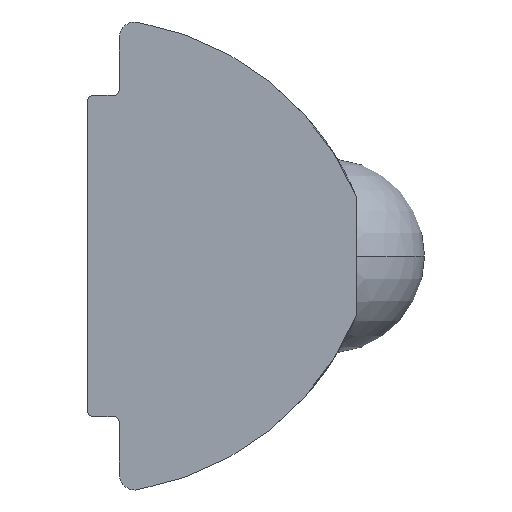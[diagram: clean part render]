
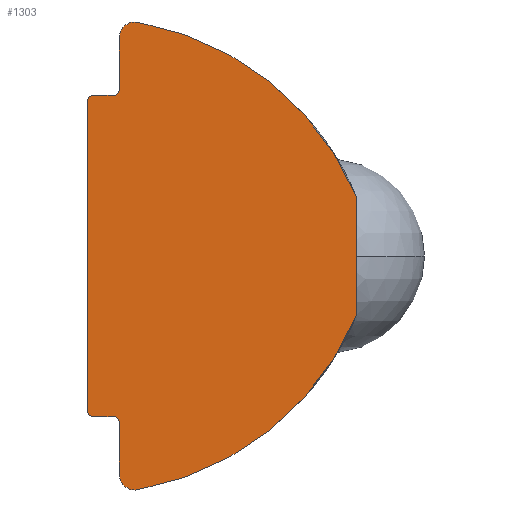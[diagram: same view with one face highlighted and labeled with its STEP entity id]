
A CAD part, left-side view. The second image highlights one B-rep face of the part: STEP entity #1303.
In plain terms, the highlighted planar face has unit normal (-1, 0, 0).
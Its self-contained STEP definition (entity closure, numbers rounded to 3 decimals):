
#134 = ORIENTED_EDGE ( 'NONE', *, *, #2573, .F. ) ;
#169 = CARTESIAN_POINT ( 'NONE',  ( 0., 6.78, -1.351 ) ) ;
#224 = CARTESIAN_POINT ( 'NONE',  ( 0., 6.78, -3.9 ) ) ;
#305 = AXIS2_PLACEMENT_3D ( 'NONE', #2432, #3426, #4887 ) ;
#356 = EDGE_CURVE ( 'NONE', #6103, #3011, #3982, .T. ) ;
#429 = LINE ( 'NONE', #6165, #3277 ) ;
#492 = DIRECTION ( 'NONE',  ( 1., 0., 0. ) ) ;
#596 = VERTEX_POINT ( 'NONE', #4872 ) ;
#617 = AXIS2_PLACEMENT_3D ( 'NONE', #5104, #2166, #4621 ) ;
#654 = CARTESIAN_POINT ( 'NONE',  ( 0., 6.63, -3.9 ) ) ;
#657 = CARTESIAN_POINT ( 'NONE',  ( 0., 6.78, 3.9 ) ) ;
#684 = VERTEX_POINT ( 'NONE', #224 ) ;
#704 = CARTESIAN_POINT ( 'NONE',  ( 0., 0., 1.5 ) ) ;
#708 = EDGE_CURVE ( 'NONE', #3981, #1138, #1649, .T. ) ;
#764 = EDGE_CURVE ( 'NONE', #684, #2660, #3195, .T. ) ;
#767 = CARTESIAN_POINT ( 'NONE',  ( 0., 6.78, 4.05 ) ) ;
#969 = ORIENTED_EDGE ( 'NONE', *, *, #5894, .T. ) ;
#1069 = CARTESIAN_POINT ( 'NONE',  ( 0., 6.63, 4.05 ) ) ;
#1112 = CARTESIAN_POINT ( 'NONE',  ( 0., 0., 1.5 ) ) ;
#1138 = VERTEX_POINT ( 'NONE', #5050 ) ;
#1186 = EDGE_CURVE ( 'NONE', #6262, #596, #4159, .T. ) ;
#1228 = DIRECTION ( 'NONE',  ( 0., 0., -1. ) ) ;
#1303 = ADVANCED_FACE ( 'NONE', ( #2367 ), #1859, .F. ) ;
#1330 = VERTEX_POINT ( 'NONE', #4309 ) ;
#1389 = CARTESIAN_POINT ( 'NONE',  ( 0., 5.58, 5.5 ) ) ;
#1462 = CIRCLE ( 'NONE', #5015, 0.15 ) ;
#1474 = VERTEX_POINT ( 'NONE', #5186 ) ;
#1548 = ORIENTED_EDGE ( 'NONE', *, *, #1186, .F. ) ;
#1583 = CARTESIAN_POINT ( 'NONE',  ( 0., 5.511, -5.894 ) ) ;
#1585 = AXIS2_PLACEMENT_3D ( 'NONE', #169, #4498, #1228 ) ;
#1628 = EDGE_CURVE ( 'NONE', #3011, #1330, #429, .T. ) ;
#1630 = VERTEX_POINT ( 'NONE', #3743 ) ;
#1649 = CIRCLE ( 'NONE', #617, 0.4 ) ;
#1699 = DIRECTION ( 'NONE',  ( 0., 0., 1. ) ) ;
#1706 = ORIENTED_EDGE ( 'NONE', *, *, #764, .F. ) ;
#1721 = DIRECTION ( 'NONE',  ( 0., 1., 0. ) ) ;
#1833 = EDGE_LOOP ( 'NONE', ( #1706, #6050, #3688, #3567, #3518, #3623, #134, #2248, #5956, #5917, #6071, #6133, #6293, #1548, #969 ) ) ;
#1859 = PLANE ( 'NONE',  #3178 ) ;
#1901 = LINE ( 'NONE', #2888, #4961 ) ;
#1936 = CARTESIAN_POINT ( 'NONE',  ( 0., 5.98, 5.5 ) ) ;
#2120 = DIRECTION ( 'NONE',  ( -1., 0., 0. ) ) ;
#2158 = LINE ( 'NONE', #1112, #6087 ) ;
#2166 = DIRECTION ( 'NONE',  ( 1., 0., 0. ) ) ;
#2177 = CARTESIAN_POINT ( 'NONE',  ( 0., 6.78, 4.05 ) ) ;
#2185 = DIRECTION ( 'NONE',  ( 0., 0., -1. ) ) ;
#2209 = DIRECTION ( 'NONE',  ( 0., -1., 0. ) ) ;
#2248 = ORIENTED_EDGE ( 'NONE', *, *, #2783, .F. ) ;
#2332 = DIRECTION ( 'NONE',  ( 1., 0., 0. ) ) ;
#2367 = FACE_OUTER_BOUND ( 'NONE', #1833, .T. ) ;
#2413 = VECTOR ( 'NONE', #1721, 1000. ) ;
#2432 = CARTESIAN_POINT ( 'NONE',  ( 0., 5.58, 5.5 ) ) ;
#2440 = CIRCLE ( 'NONE', #5200, 0.15 ) ;
#2501 = CARTESIAN_POINT ( 'NONE',  ( 0., 6.63, -4.05 ) ) ;
#2515 = CARTESIAN_POINT ( 'NONE',  ( 0., 5.511, 5.894 ) ) ;
#2573 = EDGE_CURVE ( 'NONE', #1630, #6103, #3477, .T. ) ;
#2660 = VERTEX_POINT ( 'NONE', #657 ) ;
#2699 = DIRECTION ( 'NONE',  ( 1., 0., 0. ) ) ;
#2745 = EDGE_CURVE ( 'NONE', #6089, #3321, #5955, .T. ) ;
#2783 = EDGE_CURVE ( 'NONE', #4448, #1630, #2158, .T. ) ;
#2888 = CARTESIAN_POINT ( 'NONE',  ( 0., 5.98, 4.05 ) ) ;
#2892 = DIRECTION ( 'NONE',  ( 1., 0., 0. ) ) ;
#3011 = VERTEX_POINT ( 'NONE', #6118 ) ;
#3178 = AXIS2_PLACEMENT_3D ( 'NONE', #1389, #2332, #4695 ) ;
#3195 = LINE ( 'NONE', #767, #4481 ) ;
#3196 = DIRECTION ( 'NONE',  ( 0., 0., -1. ) ) ;
#3255 = DIRECTION ( 'NONE',  ( -1., 0., 0. ) ) ;
#3277 = VECTOR ( 'NONE', #4278, 1000. ) ;
#3321 = VERTEX_POINT ( 'NONE', #2501 ) ;
#3365 = EDGE_CURVE ( 'NONE', #1474, #3981, #1901, .T. ) ;
#3388 = DIRECTION ( 'NONE',  ( 0., 0., 1. ) ) ;
#3426 = DIRECTION ( 'NONE',  ( 1., 0., 0. ) ) ;
#3465 = CIRCLE ( 'NONE', #305, 0.4 ) ;
#3477 = CIRCLE ( 'NONE', #4656, 7.355 ) ;
#3489 = CARTESIAN_POINT ( 'NONE',  ( 0., 6.13, -4.2 ) ) ;
#3518 = ORIENTED_EDGE ( 'NONE', *, *, #1628, .F. ) ;
#3567 = ORIENTED_EDGE ( 'NONE', *, *, #6203, .T. ) ;
#3623 = ORIENTED_EDGE ( 'NONE', *, *, #356, .F. ) ;
#3664 = DIRECTION ( 'NONE',  ( 0., 0., -1. ) ) ;
#3688 = ORIENTED_EDGE ( 'NONE', *, *, #2745, .F. ) ;
#3743 = CARTESIAN_POINT ( 'NONE',  ( 0., 0., -1.5 ) ) ;
#3768 = AXIS2_PLACEMENT_3D ( 'NONE', #3489, #492, #5438 ) ;
#3820 = CARTESIAN_POINT ( 'NONE',  ( 0., 6.13, 4.2 ) ) ;
#3826 = VERTEX_POINT ( 'NONE', #2515 ) ;
#3850 = DIRECTION ( 'NONE',  ( 0., 0., 1. ) ) ;
#3967 = CARTESIAN_POINT ( 'NONE',  ( 0., 6.13, -4.05 ) ) ;
#3981 = VERTEX_POINT ( 'NONE', #1936 ) ;
#3982 = CIRCLE ( 'NONE', #4796, 0.4 ) ;
#4159 = LINE ( 'NONE', #2177, #5105 ) ;
#4278 = DIRECTION ( 'NONE',  ( 0., 0., 1. ) ) ;
#4309 = CARTESIAN_POINT ( 'NONE',  ( 0., 5.98, -4.2 ) ) ;
#4337 = CARTESIAN_POINT ( 'NONE',  ( 0., 5.58, -5.5 ) ) ;
#4448 = VERTEX_POINT ( 'NONE', #704 ) ;
#4481 = VECTOR ( 'NONE', #1699, 1000. ) ;
#4498 = DIRECTION ( 'NONE',  ( 1., 0., 0. ) ) ;
#4510 = CARTESIAN_POINT ( 'NONE',  ( 0., 6.78, -4.05 ) ) ;
#4621 = DIRECTION ( 'NONE',  ( 0., 0., -1. ) ) ;
#4656 = AXIS2_PLACEMENT_3D ( 'NONE', #5062, #2699, #6021 ) ;
#4695 = DIRECTION ( 'NONE',  ( 0., 0., -1. ) ) ;
#4796 = AXIS2_PLACEMENT_3D ( 'NONE', #4337, #5843, #3388 ) ;
#4872 = CARTESIAN_POINT ( 'NONE',  ( 0., 6.13, 4.05 ) ) ;
#4874 = EDGE_CURVE ( 'NONE', #684, #3321, #1462, .T. ) ;
#4887 = DIRECTION ( 'NONE',  ( 0., 0., -1. ) ) ;
#4961 = VECTOR ( 'NONE', #3850, 1000. ) ;
#5015 = AXIS2_PLACEMENT_3D ( 'NONE', #654, #2120, #2185 ) ;
#5050 = CARTESIAN_POINT ( 'NONE',  ( 0., 5.58, 5.9 ) ) ;
#5062 = CARTESIAN_POINT ( 'NONE',  ( 0., 6.78, 1.351 ) ) ;
#5073 = EDGE_CURVE ( 'NONE', #3826, #4448, #5449, .T. ) ;
#5104 = CARTESIAN_POINT ( 'NONE',  ( 0., 5.58, 5.5 ) ) ;
#5105 = VECTOR ( 'NONE', #2209, 1000. ) ;
#5186 = CARTESIAN_POINT ( 'NONE',  ( 0., 5.98, 4.2 ) ) ;
#5200 = AXIS2_PLACEMENT_3D ( 'NONE', #6127, #3255, #3196 ) ;
#5400 = CIRCLE ( 'NONE', #6008, 0.15 ) ;
#5438 = DIRECTION ( 'NONE',  ( 0., 0., -1. ) ) ;
#5449 = CIRCLE ( 'NONE', #1585, 7.355 ) ;
#5680 = EDGE_CURVE ( 'NONE', #1474, #596, #5400, .T. ) ;
#5739 = DIRECTION ( 'NONE',  ( 0., 0., -1. ) ) ;
#5843 = DIRECTION ( 'NONE',  ( 1., 0., 0. ) ) ;
#5894 = EDGE_CURVE ( 'NONE', #6262, #2660, #2440, .T. ) ;
#5917 = ORIENTED_EDGE ( 'NONE', *, *, #6247, .F. ) ;
#5955 = LINE ( 'NONE', #4510, #2413 ) ;
#5956 = ORIENTED_EDGE ( 'NONE', *, *, #5073, .F. ) ;
#6008 = AXIS2_PLACEMENT_3D ( 'NONE', #3820, #2892, #5739 ) ;
#6021 = DIRECTION ( 'NONE',  ( 0., 0., 1. ) ) ;
#6050 = ORIENTED_EDGE ( 'NONE', *, *, #4874, .T. ) ;
#6071 = ORIENTED_EDGE ( 'NONE', *, *, #708, .F. ) ;
#6087 = VECTOR ( 'NONE', #3664, 1000. ) ;
#6089 = VERTEX_POINT ( 'NONE', #3967 ) ;
#6103 = VERTEX_POINT ( 'NONE', #1583 ) ;
#6118 = CARTESIAN_POINT ( 'NONE',  ( 0., 5.98, -5.5 ) ) ;
#6127 = CARTESIAN_POINT ( 'NONE',  ( 0., 6.63, 3.9 ) ) ;
#6133 = ORIENTED_EDGE ( 'NONE', *, *, #3365, .F. ) ;
#6165 = CARTESIAN_POINT ( 'NONE',  ( 0., 5.98, -4.05 ) ) ;
#6203 = EDGE_CURVE ( 'NONE', #6089, #1330, #6214, .T. ) ;
#6214 = CIRCLE ( 'NONE', #3768, 0.15 ) ;
#6247 = EDGE_CURVE ( 'NONE', #1138, #3826, #3465, .T. ) ;
#6262 = VERTEX_POINT ( 'NONE', #1069 ) ;
#6293 = ORIENTED_EDGE ( 'NONE', *, *, #5680, .T. ) ;
